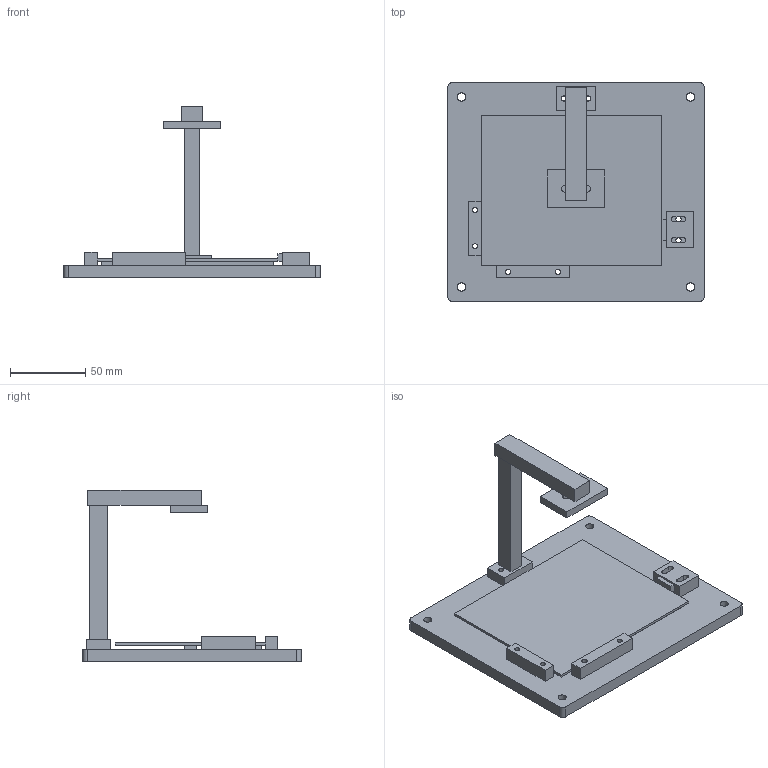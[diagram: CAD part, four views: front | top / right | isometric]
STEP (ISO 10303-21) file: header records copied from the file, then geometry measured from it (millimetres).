
FILE_DESCRIPTION(('Open CASCADE Model'),'2;1');
FILE_NAME('120 x 100 fixture','2026-11-23T13:40:06',('Author'),( 'Open CASCADE'),'Open CASCADE STEP processor 8.0','build123d', 'Unknown');
FILE_SCHEMA(('AUTOMOTIVE_DESIGN { 1 0 10303 214 1 1 1 1 }'));
Length unit declared in the file: millimetre
Products named in the file (12): 120 x 100 fixture; Baseplate; Front support rail; Rear support rail; X datum stop; Y datum stop; Sliding clamp; Compliant tip; Reference PCB; Camera mast; Camera arm; Slotted camera plate
Assembly tree (11 placements, depth 2):
  120 x 100 fixture
    Baseplate
    Front support rail
    Rear support rail
    X datum stop
    Y datum stop
    Sliding clamp
    Compliant tip
    Reference PCB
    Camera mast
    Camera arm
    Slotted camera plate
Bounding box: 170 x 145 x 114 mm (x, y, z)
Volume: 257909.4 mm3; surface area: 102690 mm2
Topology: 11 solids, 11 shells, 107 faces, 252 edges, 168 vertices
Faces by surface type: plane 77, cylinder 30
Full cylindrical faces by diameter (mm): 3.4 x16, 5.5 x4
Entity records: 6821 total; most frequent: CARTESIAN_POINT 1097, DIRECTION 1020, LINE 606, VECTOR 606, ORIENTED_EDGE 504, PCURVE 504, DEFINITIONAL_REPRESENTATION 504, EDGE_CURVE 252
